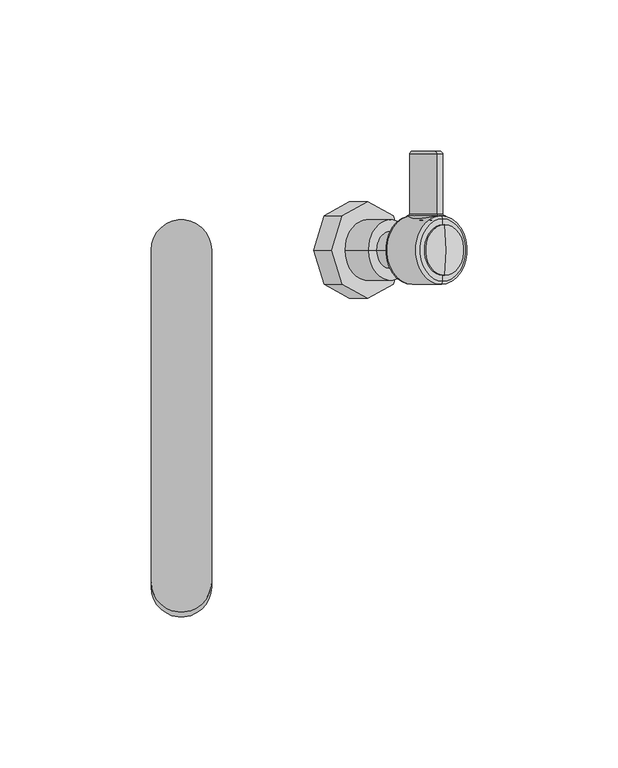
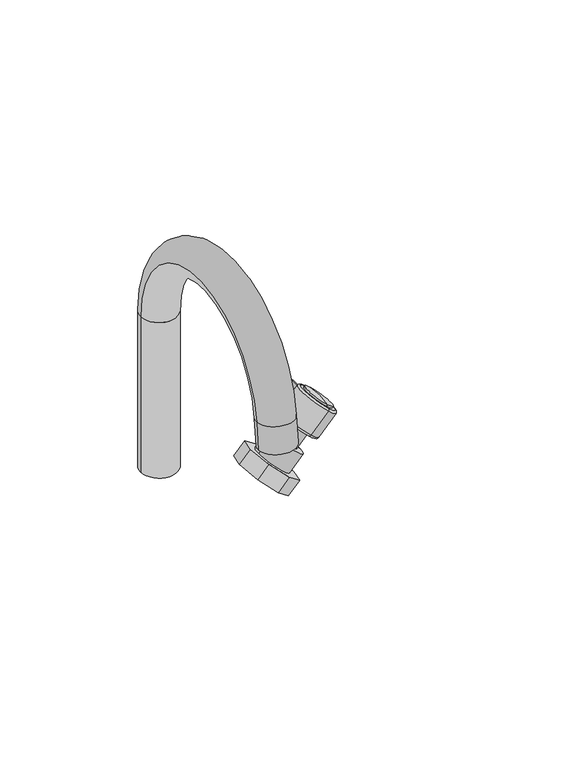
"""IFC4 building model written with IfcOpenShell, lengths in millimetres: flow terminal geometry, Torneira de mesa para copas e áreas de serviço : Torneira de mesa para copas e áreas de serviço."""

from ifc_helpers import new_model, si_unit, point, frame, origin, place, context, project, spatial, polyline, circle_curve, ellipse_curve, trimmed, outline, extrude, source, transform, mapped, element, save
from ifc_brep_helpers import plane_surface, cylinder_surface, revolved_surface, advanced_brep


def flow_terminal_51a5b938(model_context):
    return source(origin(), model_context, "Body", "SolidModel", [
        advanced_brep(
        [(68.8926402, 31.7081559, 73.0827156), (76.2480971, 31.7081559, 81.2221116), (76.2480971, 12.0599886, 81.2221116), (68.8926402, 12.0599886, 73.0827156), (69.5631144, 32.7081559, 73.8246485), (75.5776229, 32.7081559, 80.4801788), (72.5703687, 32.7081559, 77.1524136), (76.7604007, 11.2958972, 81.7890161), (68.3803366, 11.2958972, 72.5158111), (72.5703687, 9.54703, 77.1524136)],
        [
            (0, 1, circle_curve(frame((72.5703687, 31.7081559, 77.1524136), z_axis=(0.0, -1.0, 0.0), x_axis=(0.6704742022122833, 0.0, 0.741932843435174)), 5.4852647)),
            (1, 2),
            (2, 3, circle_curve(frame((72.5703687, 12.0599886, 77.1524136), z_axis=(0.0, 1.0, 0.0), x_axis=(0.6704742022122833, 0.0, 0.741932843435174)), 5.4852647)),
            (3, 0),
            (1, 0, circle_curve(frame((72.5703687, 31.7081559, 77.1524136), z_axis=(0.0, -1.0, 0.0), x_axis=(0.6704742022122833, 0.0, 0.741932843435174)), 5.4852647)),
            (3, 2, circle_curve(frame((72.5703687, 12.0599886, 77.1524136), z_axis=(0.0, 1.0, 0.0), x_axis=(0.6704742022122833, 0.0, 0.741932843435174)), 5.4852647)),
            (4, 5, circle_curve(frame((72.5703687, 32.7081559, 77.1524136), z_axis=(0.0, -1.0, 0.0), x_axis=(0.6704742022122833, 0.0, 0.741932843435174)), 4.4852647)),
            (5, 1, circle_curve(frame((75.5776229, 31.7081559, 80.4801788), z_axis=(0.741932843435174, 0.0, -0.6704742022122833), x_axis=(0.0, -1.0, 0.0)), 1.0)),
            (0, 4, circle_curve(frame((69.5631144, 31.7081559, 73.8246485), z_axis=(0.7419328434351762, 0.0, -0.6704742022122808), x_axis=(0.0, -1.0, 0.0)), 1.0)),
            (5, 4, circle_curve(frame((72.5703687, 32.7081559, 77.1524136), z_axis=(0.0, -1.0, 0.0), x_axis=(0.6704742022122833, 0.0, 0.741932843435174)), 4.4852647)),
            (6, 5),
            (4, 6),
            (2, 7, circle_curve(frame((76.7604007, 12.0599886, 81.7890161), z_axis=(-0.741932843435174, 0.0, 0.6704742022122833), x_axis=(0.0, -1.0, 0.0)), 0.7640914)),
            (7, 8, circle_curve(frame((72.5703687, 11.2958972, 77.1524136), z_axis=(0.0, 1.0, 0.0), x_axis=(0.6704742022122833, 0.0, 0.741932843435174)), 6.2493561)),
            (8, 3, circle_curve(frame((68.3803366, 12.0599886, 72.5158111), z_axis=(-0.7419328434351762, 0.0, 0.6704742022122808), x_axis=(0.0, -1.0, 0.0)), 0.7640914)),
            (8, 7, circle_curve(frame((72.5703687, 11.2958972, 77.1524136), z_axis=(0.0, 1.0, 0.0), x_axis=(0.6704742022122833, 0.0, 0.741932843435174)), 6.2493561)),
            (7, 9, circle_curve(frame((72.3138033, 22.9545022, 76.8685037), z_axis=(0.741932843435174, 0.0, -0.6704742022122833), x_axis=(0.0, -1.0, 0.0)), 13.4129318)),
            (9, 8, circle_curve(frame((72.826934, 22.9545022, 77.4363236), z_axis=(0.7419328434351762, 0.0, -0.6704742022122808), x_axis=(0.0, -1.0, 0.0)), 13.4129318)),
        ],
        [
            cylinder_surface(frame((72.5703687, 9.54703, 77.1524136), z_axis=(0.0, 1.0, 0.0), x_axis=(0.6704742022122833, 0.0, 0.741932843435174)), 5.4852647),
            revolved_surface(trimmed(ellipse_curve(frame((75.5776229, 31.7081559, 80.4801788), z_axis=(-0.741932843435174, 0.0, 0.6704742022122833), x_axis=(0.0, -1.0, 0.0)), 1.0, 1.0), [point((76.2480971, 31.7081559, 81.2221116))], [point((75.5776229, 32.7081559, 80.4801788))], True, "CARTESIAN"), (72.5703687, 9.54703, 77.1524136), (0.0, 1.0, 0.0)),
            plane_surface(frame((72.5703687, 32.7081559, 77.1524136), z_axis=(0.0, 1.0, 0.0), x_axis=(0.6704742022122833, 0.0, 0.741932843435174))),
            revolved_surface(trimmed(ellipse_curve(frame((76.7604007, 12.0599886, 81.7890161), z_axis=(0.741932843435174, 0.0, -0.6704742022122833), x_axis=(0.0, -1.0, 0.0)), 0.7640914, 0.7640914), [point((76.7604007, 11.2958972, 81.7890161))], [point((76.2480971, 12.0599886, 81.2221116))], True, "CARTESIAN"), (72.5703687, 9.54703, 77.1524136), (0.0, 1.0, 0.0)),
            revolved_surface(trimmed(ellipse_curve(frame((72.3138033, 22.9545022, 76.8685037), z_axis=(-0.741932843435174, 0.0, 0.6704742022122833), x_axis=(0.0, -1.0, 0.0)), 13.4129318, 13.4129318), [point((72.5703687, 9.54703, 77.1524136))], [point((76.7604007, 11.2958972, 81.7890161))], True, "CARTESIAN"), (72.5703687, 9.54703, 77.1524136), (0.0, 1.0, 0.0)),
        ],
        [
            (0, [[1, 2, 3, 4]]),
            (0, [[5, -4, 6, -2]]),
            (1, [[7, 8, -1, 9]]),
            (1, [[10, -9, -5, -8]]),
            (2, [[11, -7, 12]]),
            (2, [[-12, -10, -11]]),
            (3, [[-3, 13, 14, 15]]),
            (3, [[-6, -15, 16, -13]]),
            (4, [[-14, 17, 18]]),
            (4, [[-16, -18, -17]]),
        ],
    ),
        advanced_brep(
        [(78.7058855, -8.3765562, 83.9418493), (78.7058855, 8.3765562, 83.9418493), (79.2108854, 0.0, 84.5006717), (67.2195892, 0.0, 71.2313521), (67.2195892, 10.3360015, 71.2313521), (67.2195892, -10.3360015, 71.2313521), (67.8900634, 11.3360015, 71.9732849), (67.8900634, -11.3360015, 71.9732849), (77.3836637, 11.3360015, 82.478706), (77.3836637, -11.3360015, 82.478706), (78.0541379, 10.3360015, 83.2206389), (78.0541379, -10.3360015, 83.2206389), (78.0541379, 8.3765562, 83.2206389), (78.0541379, -8.3765562, 83.2206389)],
        [
            (0, 1, circle_curve(frame((78.7058855, 0.0, 83.9418493), z_axis=(0.6704742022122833, 0.0, 0.741932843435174), x_axis=(0.0, 1.0, 0.0)), 8.3765562)),
            (1, 2, circle_curve(frame((48.4727414, 0.0998443, 50.4864793), z_axis=(0.741932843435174, 0.0, -0.6704742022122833), x_axis=(0.0, 1.0, 0.0)), 45.8454878)),
            (2, 0, circle_curve(frame((48.4727414, -0.0998443, 50.4864793), z_axis=(0.741932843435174, 0.0, -0.6704742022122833), x_axis=(0.0, -1.0, 0.0)), 45.8454878)),
            (1, 0, circle_curve(frame((78.7058855, 0.0, 83.9418493), z_axis=(0.6704742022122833, 0.0, 0.741932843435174), x_axis=(0.0, 1.0, 0.0)), 8.3765562)),
            (3, 4),
            (4, 5, circle_curve(frame((67.2195892, 0.0, 71.2313521), z_axis=(-0.6704742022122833, 0.0, -0.741932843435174), x_axis=(0.0, 1.0, 0.0)), 10.3360015)),
            (5, 3),
            (5, 4, circle_curve(frame((67.2195892, 0.0, 71.2313521), z_axis=(-0.6704742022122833, 0.0, -0.741932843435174), x_axis=(0.0, 1.0, 0.0)), 10.3360015)),
            (4, 6, circle_curve(frame((67.8900634, 10.3360015, 71.9732849), z_axis=(0.741932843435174, 0.0, -0.6704742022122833), x_axis=(0.0, 1.0, 0.0)), 1.0)),
            (6, 7, circle_curve(frame((67.8900634, 0.0, 71.9732849), z_axis=(-0.6704742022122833, 0.0, -0.741932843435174), x_axis=(0.0, 1.0, 0.0)), 11.3360015)),
            (7, 5, circle_curve(frame((67.8900634, -10.3360015, 71.9732849), z_axis=(0.741932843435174, 0.0, -0.6704742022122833), x_axis=(0.0, -1.0, 0.0)), 1.0)),
            (7, 6, circle_curve(frame((67.8900634, 0.0, 71.9732849), z_axis=(-0.6704742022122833, 0.0, -0.741932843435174), x_axis=(0.0, 1.0, 0.0)), 11.3360015)),
            (6, 8),
            (8, 9, circle_curve(frame((77.3836637, 0.0, 82.478706), z_axis=(-0.6704742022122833, 0.0, -0.741932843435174), x_axis=(0.0, 1.0, 0.0)), 11.3360015)),
            (9, 7),
            (9, 8, circle_curve(frame((77.3836637, 0.0, 82.478706), z_axis=(-0.6704742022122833, 0.0, -0.741932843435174), x_axis=(0.0, 1.0, 0.0)), 11.3360015)),
            (8, 10, circle_curve(frame((77.3836637, 10.3360015, 82.478706), z_axis=(0.741932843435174, 0.0, -0.6704742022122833), x_axis=(0.0, 1.0, 0.0)), 1.0)),
            (10, 11, circle_curve(frame((78.0541379, 0.0, 83.2206389), z_axis=(-0.6704742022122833, 0.0, -0.741932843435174), x_axis=(0.0, 1.0, 0.0)), 10.3360015)),
            (11, 9, circle_curve(frame((77.3836637, -10.3360015, 82.478706), z_axis=(0.741932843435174, 0.0, -0.6704742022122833), x_axis=(0.0, -1.0, 0.0)), 1.0)),
            (11, 10, circle_curve(frame((78.0541379, 0.0, 83.2206389), z_axis=(-0.6704742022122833, 0.0, -0.741932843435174), x_axis=(0.0, 1.0, 0.0)), 10.3360015)),
            (10, 12),
            (12, 13, circle_curve(frame((78.0541379, 0.0, 83.2206389), z_axis=(-0.6704742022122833, 0.0, -0.741932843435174), x_axis=(0.0, 1.0, 0.0)), 8.3765562)),
            (13, 11),
            (13, 12, circle_curve(frame((78.0541379, 0.0, 83.2206389), z_axis=(-0.6704742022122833, 0.0, -0.741932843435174), x_axis=(0.0, 1.0, 0.0)), 8.3765562)),
            (12, 1),
            (0, 13),
        ],
        [
            revolved_surface(trimmed(ellipse_curve(frame((48.4727414, 0.0998443, 50.4864793), z_axis=(-0.741932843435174, 0.0, 0.6704742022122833), x_axis=(0.0, 1.0, 0.0)), 45.8454878, 45.8454878), [point((79.2108854, 0.0, 84.5006717))], [point((78.7058855, 8.3765562, 83.9418493))], True, "CARTESIAN"), (79.2109583, 0.0, 84.5007524), (-0.6704742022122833, 0.0, -0.741932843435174)),
            plane_surface(frame((67.2195892, 0.0, 71.2313521), z_axis=(-0.6704742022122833, 0.0, -0.741932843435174), x_axis=(0.0, 1.0, 0.0))),
            revolved_surface(trimmed(ellipse_curve(frame((67.8900634, 10.3360015, 71.9732849), z_axis=(-0.741932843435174, 0.0, 0.6704742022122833), x_axis=(0.0, 1.0, 0.0)), 1.0, 1.0), [point((67.8900634, 11.3360015, 71.9732849))], [point((67.2195892, 10.3360015, 71.2313521))], True, "CARTESIAN"), (79.2109583, 0.0, 84.5007524), (-0.6704742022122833, 0.0, -0.741932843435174)),
            cylinder_surface(frame((79.2109583, 0.0, 84.5007524), z_axis=(-0.6704742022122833, 0.0, -0.741932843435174), x_axis=(0.0, 1.0, 0.0)), 11.3360015),
            revolved_surface(trimmed(ellipse_curve(frame((77.3836637, 10.3360015, 82.478706), z_axis=(-0.741932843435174, 0.0, 0.6704742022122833), x_axis=(0.0, 1.0, 0.0)), 1.0, 1.0), [point((78.0541379, 10.3360015, 83.2206389))], [point((77.3836637, 11.3360015, 82.478706))], True, "CARTESIAN"), (79.2109583, 0.0, 84.5007524), (-0.6704742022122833, 0.0, -0.741932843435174)),
            plane_surface(frame((78.0541379, 0.0, 83.2206389), z_axis=(0.6704742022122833, 0.0, 0.741932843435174), x_axis=(0.0, 1.0, 0.0))),
            cylinder_surface(frame((79.2109583, 0.0, 84.5007524), z_axis=(-0.6704742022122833, 0.0, -0.741932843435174), x_axis=(0.0, 1.0, 0.0)), 8.3765562),
        ],
        [
            (0, [[1, 2, 3]]),
            (0, [[4, -3, -2]]),
            (1, [[5, 6, 7]]),
            (1, [[-7, 8, -5]]),
            (2, [[-6, 9, 10, 11]]),
            (2, [[-8, -11, 12, -9]]),
            (3, [[-10, 13, 14, 15]]),
            (3, [[-12, -15, 16, -13]]),
            (4, [[-14, 17, 18, 19]]),
            (4, [[-16, -19, 20, -17]]),
            (5, [[-18, 21, 22, 23]]),
            (5, [[-20, -23, 24, -21]]),
            (6, [[-22, 25, -1, 26]]),
            (6, [[-24, -26, -4, -25]]),
        ],
    ),
        advanced_brep(
        [(65.3069688, 0.0, 59.9979145), (56.2365516, 0.0, 68.194722), (62.6843807, 0.0, 75.3297559), (71.7547978, 0.0, 67.1329484), (67.2195893, 0.0, 71.2313522), (53.2024355, 0.0, 55.7202606), (45.7677261, 0.0, 62.4389022), (60.6371449, 0.0, 49.001619), (53.3370507, 0.0, 70.8149599), (68.2064696, 0.0, 57.3776766)],
        [
            (0, 1, circle_curve(frame((60.7717602, 0.0, 64.0963183), z_axis=(0.6704742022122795, 0.0, 0.7419328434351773), x_axis=(-0.7419328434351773, 0.0, 0.6704742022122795)), 6.1126942)),
            (1, 2),
            (2, 3, circle_curve(frame((67.2195893, 0.0, 71.2313522), z_axis=(-0.6704742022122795, 0.0, -0.7419328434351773), x_axis=(-0.7419328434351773, 0.0, 0.6704742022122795)), 6.1126942)),
            (3, 0),
            (1, 0, circle_curve(frame((60.7717602, 0.0, 64.0963183), z_axis=(0.6704742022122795, 0.0, 0.7419328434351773), x_axis=(-0.7419328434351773, 0.0, 0.6704742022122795)), 6.1126942)),
            (3, 2, circle_curve(frame((67.2195893, 0.0, 71.2313522), z_axis=(-0.6704742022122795, 0.0, -0.7419328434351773), x_axis=(-0.7419328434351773, 0.0, 0.6704742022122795)), 6.1126942)),
            (2, 4),
            (4, 3),
            (5, 6),
            (6, 7, circle_curve(frame((53.2024355, 0.0, 55.7202606), z_axis=(-0.6704742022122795, 0.0, -0.7419328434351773), x_axis=(-0.7419328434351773, 0.0, 0.6704742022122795)), 10.020731)),
            (7, 5),
            (7, 6, circle_curve(frame((53.2024355, 0.0, 55.7202606), z_axis=(-0.6704742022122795, 0.0, -0.7419328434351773), x_axis=(-0.7419328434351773, 0.0, 0.6704742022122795)), 10.020731)),
            (6, 8),
            (8, 9, circle_curve(frame((60.7717602, 0.0, 64.0963183), z_axis=(-0.6704742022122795, 0.0, -0.7419328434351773), x_axis=(-0.7419328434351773, 0.0, 0.6704742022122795)), 10.020731)),
            (9, 7),
            (9, 8, circle_curve(frame((60.7717602, 0.0, 64.0963183), z_axis=(-0.6704742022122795, 0.0, -0.7419328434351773), x_axis=(-0.7419328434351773, 0.0, 0.6704742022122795)), 10.020731)),
            (8, 1),
            (0, 9),
        ],
        [
            cylinder_surface(frame((67.2195893, 0.0, 71.2313522), z_axis=(-0.6704742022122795, 0.0, -0.7419328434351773), x_axis=(-0.7419328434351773, 0.0, 0.6704742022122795)), 6.1126942),
            plane_surface(frame((67.2195893, 0.0, 71.2313522), z_axis=(0.6704742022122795, 0.0, 0.7419328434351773), x_axis=(-0.7419328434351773, 0.0, 0.6704742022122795))),
            plane_surface(frame((53.2024355, 0.0, 55.7202606), z_axis=(-0.6704742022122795, 0.0, -0.7419328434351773), x_axis=(-0.7419328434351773, 0.0, 0.6704742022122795))),
            cylinder_surface(frame((67.2195893, 0.0, 71.2313522), z_axis=(-0.6704742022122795, 0.0, -0.7419328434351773), x_axis=(-0.7419328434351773, 0.0, 0.6704742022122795)), 10.020731),
            plane_surface(frame((60.7717602, 0.0, 64.0963183), z_axis=(0.6704742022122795, 0.0, 0.7419328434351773), x_axis=(-0.7419328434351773, 0.0, 0.6704742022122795))),
        ],
        [
            (0, [[1, 2, 3, 4]]),
            (0, [[5, -4, 6, -2]]),
            (1, [[-3, 7, 8]]),
            (1, [[-6, -8, -7]]),
            (2, [[9, 10, 11]]),
            (2, [[-11, 12, -9]]),
            (3, [[-10, 13, 14, 15]]),
            (3, [[-12, -15, 16, -13]]),
            (4, [[-14, 17, -1, 18]]),
            (4, [[-16, -18, -5, -17]]),
        ],
    ),
        advanced_brep(
        [(-18.4551298, 0.0, 74.0955324), (1.5448702, 0.0, 74.0955324), (-18.4551298, 0.0, 163.6442205), (1.5448702, 0.0, 163.6442205), (-18.4551298, -111.4883621, 154.3317091), (1.5448702, -111.4883621, 154.3317091), (1.5448702, -109.879286, 169.4681572), (-18.4551298, -109.879286, 169.4681572)],
        [
            (0, 1, circle_curve(frame((-8.4551298, 0.0, 74.0955324), z_axis=(0.0, 0.0, -1.0), x_axis=(1.0, 0.0, 0.0)), 10.0)),
            (1, 0, circle_curve(frame((-8.4551298, 0.0, 74.0955324), z_axis=(0.0, 0.0, -1.0), x_axis=(1.0, 0.0, 0.0)), 10.0)),
            (0, 2),
            (2, 3, circle_curve(frame((-8.4551298, 0.0, 163.6442205), z_axis=(0.0, 0.0, -1.0), x_axis=(1.0, 0.0, 0.0)), 10.0)),
            (3, 1),
            (3, 2, circle_curve(frame((-8.4551298, 0.0, 163.6442205), z_axis=(0.0, 0.0, -1.0), x_axis=(1.0, 0.0, 0.0)), 10.0)),
            (4, 5, circle_curve(frame((-8.4551298, -111.4883621, 154.3317091), z_axis=(0.0, -0.10570911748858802, -0.9943970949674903), x_axis=(1.0, 0.0, 0.0)), 10.0)),
            (5, 4, circle_curve(frame((-8.4551298, -111.4883621, 154.3317091), z_axis=(0.0, -0.10570911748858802, -0.9943970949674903), x_axis=(1.0, 0.0, 0.0)), 10.0)),
            (6, 3, circle_curve(frame((1.5448702, -55.0939862, 163.6442205), z_axis=(-1.0, 0.0, 0.0), x_axis=(0.0, 1.0, 0.0)), 55.0939862)),
            (2, 7, circle_curve(frame((-18.4551298, -55.0939862, 163.6442205), z_axis=(1.0, 0.0, 0.0), x_axis=(0.0, 1.0, 0.0)), 55.0939862)),
            (7, 6, circle_curve(frame((-8.4551298, -109.879286, 169.4681572), z_axis=(0.0, 0.10570911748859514, 0.9943970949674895), x_axis=(1.0, 0.0, 0.0)), 10.0)),
            (6, 7, circle_curve(frame((-8.4551298, -109.879286, 169.4681572), z_axis=(0.0, 0.10570911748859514, 0.9943970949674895), x_axis=(1.0, 0.0, 0.0)), 10.0)),
            (7, 4),
            (5, 6),
        ],
        [
            plane_surface(frame((-8.4551298, 0.0, 74.0955324), z_axis=(0.0, 0.0, -1.0), x_axis=(1.0, 0.0, 0.0))),
            cylinder_surface(frame((-8.4551298, 0.0, 74.0955324), z_axis=(0.0, 0.0, -1.0), x_axis=(1.0, 0.0, 0.0)), 10.0),
            plane_surface(frame((-8.4551298, -111.4883621, 154.3317091), z_axis=(0.0, -0.10570911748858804, -0.9943970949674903), x_axis=(1.0, 0.0, 0.0))),
            revolved_surface(trimmed(ellipse_curve(frame((-8.4551298, 0.0, 163.6442205), z_axis=(0.0, 0.0, -1.0), x_axis=(1.0, 0.0, 0.0)), 10.0, 10.0), [point((-18.4551298, 0.0, 163.6442205))], [point((1.5448702, 0.0, 163.6442205))], True, "CARTESIAN"), (-8.4551298, -55.0939862, 163.6442205), (1.0, 0.0, 0.0)),
            revolved_surface(trimmed(ellipse_curve(frame((-8.4551298, 0.0, 163.6442205), z_axis=(0.0, 0.0, -1.0), x_axis=(1.0, 0.0, 0.0)), 10.0, 10.0), [point((1.5448702, 0.0, 163.6442205))], [point((-18.4551298, 0.0, 163.6442205))], True, "CARTESIAN"), (-8.4551298, -55.0939862, 163.6442205), (1.0, 0.0, 0.0)),
            cylinder_surface(frame((-8.4551298, -109.879286, 169.4681572), z_axis=(0.0, 0.10570911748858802, 0.9943970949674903), x_axis=(1.0, 0.0, 0.0)), 10.0),
        ],
        [
            (0, [[1, 2]]),
            (1, [[-1, 3, 4, 5]]),
            (1, [[-2, -5, 6, -3]]),
            (2, [[7, 8]]),
            (3, [[9, -4, 10, 11]]),
            (4, [[-10, -6, -9, 12]]),
            (5, [[-11, 13, -8, 14]]),
            (5, [[-12, -14, -7, -13]]),
        ],
    ),
        extrude(outline(polyline([(0.0, 0.0), (8.6591376, -8.6591375), (8.6591376, -20.9050074), (0.0, -29.564145), (-12.2458698, -29.564145), (-20.9050074, -20.9050074), (-20.9050074, -8.6591376), (-12.2458698, 1e-07), (0.0, 0.0)])), frame((59.0499689, 0.0, 38.3273127), z_axis=(0.6704742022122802, 0.0, 0.741932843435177), x_axis=(0.2839254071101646, -0.9238795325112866, -0.25657936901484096)), (0.0, 0.0, 1.0), 8.983779),
    ])


if __name__ == "__main__":
    model = new_model("IFC4")
    model_context = context("Model", 3, world=origin())
    ifc_project = project(units=[si_unit("LENGTHUNIT", "METRE", prefix="MILLI")], contexts=[model_context])
    site = spatial("IfcSite", under=ifc_project)
    building = spatial("IfcBuilding", under=site)
    placement = place(None, origin())
    flow_terminal_shape = flow_terminal_51a5b938(model_context)
    element("IfcFlowTerminal", 1, ObjectType="Torneira de mesa para copas e áreas de serviço : Torneira de mesa para copas e áreas de serviço", at=placement, inside=building, context=model_context, shape_type="MappedRepresentation", body=[
        mapped(flow_terminal_shape, transform((0.0, 0.0, 0.0), x_axis=(1.0, 0.0, 0.0), y_axis=(0.0, 1.0, 0.0), z_axis=(0.0, 0.0, 1.0))),
    ])
    save(model, "model.ifc")
